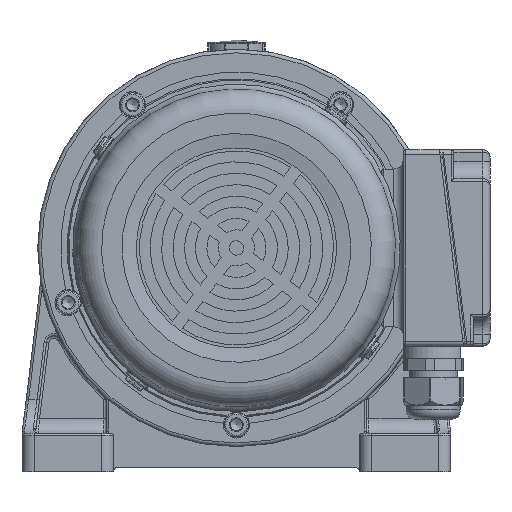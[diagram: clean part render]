
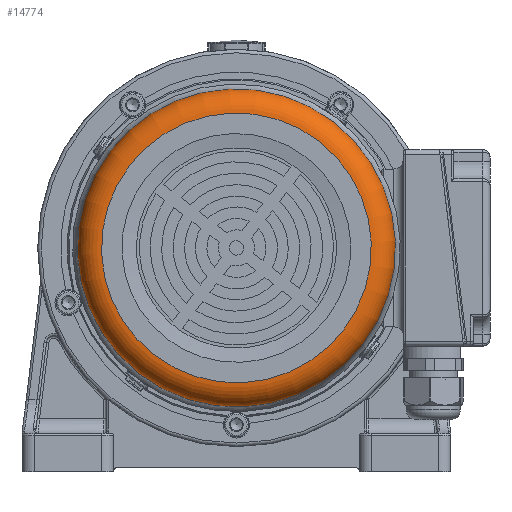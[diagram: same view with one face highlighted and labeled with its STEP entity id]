
A CAD part, left-side view. The second image highlights one B-rep face of the part: STEP entity #14774.
In plain terms, the highlighted toroidal (fillet/blend) face has major radius 56 mm and minor radius 10 mm.
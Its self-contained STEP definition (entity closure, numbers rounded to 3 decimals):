
#1598=TOROIDAL_SURFACE('',#61352,56.,10.);
#1853=FACE_BOUND('',#21634,.T.);
#1854=FACE_BOUND('',#21635,.T.);
#14774=ADVANCED_FACE('',(#1853,#1854),#1598,.T.);
#21634=EDGE_LOOP('',(#30281));
#21635=EDGE_LOOP('',(#30282));
#30281=ORIENTED_EDGE('',*,*,#51327,.T.);
#30282=ORIENTED_EDGE('',*,*,#49635,.F.);
#43864=VERTEX_POINT('',#82317);
#44972=VERTEX_POINT('',#88984);
#49635=EDGE_CURVE('',#43864,#43864,#57931,.T.);
#51327=EDGE_CURVE('',#44972,#44972,#58528,.T.);
#57931=CIRCLE('',#60196,56.);
#58528=CIRCLE('',#61351,66.);
#60196=AXIS2_PLACEMENT_3D('',#82316,#66288,#66289);
#61351=AXIS2_PLACEMENT_3D('',#88983,#69408,#69409);
#61352=AXIS2_PLACEMENT_3D('',#88985,#69410,#69411);
#66288=DIRECTION('',(-1.,0.,0.));
#66289=DIRECTION('',(0.,-0.609,0.793));
#69408=DIRECTION('',(-1.,0.,0.));
#69409=DIRECTION('',(0.,-0.609,0.793));
#69410=DIRECTION('',(-1.,0.,0.));
#69411=DIRECTION('',(0.,-0.609,0.793));
#82316=CARTESIAN_POINT('',(163.559,603.317,-762.609));
#82317=CARTESIAN_POINT('',(163.559,569.226,-718.181));
#88983=CARTESIAN_POINT('',(173.559,603.317,-762.609));
#88984=CARTESIAN_POINT('',(173.559,563.138,-710.247));
#88985=CARTESIAN_POINT('',(173.559,603.317,-762.609));
